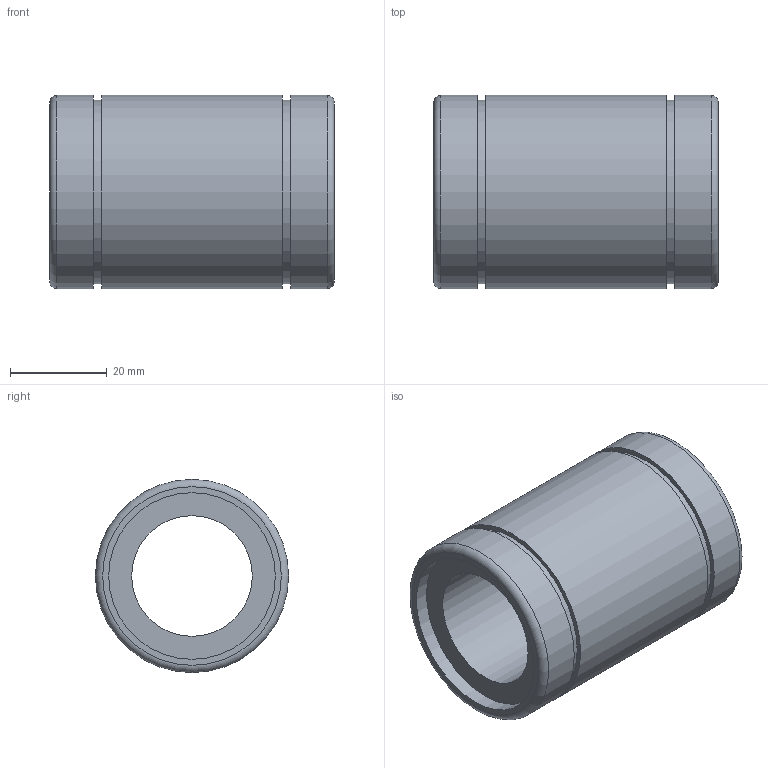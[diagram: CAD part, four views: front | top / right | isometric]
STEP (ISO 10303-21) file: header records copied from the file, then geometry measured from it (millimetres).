
FILE_DESCRIPTION( ( 'Unknown' ), '1' );
FILE_NAME( 'D:/累诀/己绕皋墨飘肺葱胶/11-04-06_档搁累己/01_府聪绢何教/LM/LM25.stp', 'Unknown', ( 'Unknown' ), ( 'Unknown' ), 'PSStep 11.0', 'Unknown', ' ' );
FILE_SCHEMA( ( 'AUTOMOTIVE_DESIGN { 1 0 10303 214 1 1 1 1 }' ) );
Length unit declared in the file: millimetre
Products named in the file (1): 1
Bounding box: 59 x 40 x 40 mm (x, y, z)
Volume: 41988.1 mm3; surface area: 14058.7 mm2
Topology: 1 solids, 1 shells, 18 faces, 30 edges, 20 vertices
Faces by surface type: plane 8, cylinder 8, torus 2
Full cylindrical faces by diameter (mm): 25 x1, 34.5 x2, 38 x2, 40 x3
Entity records: 528 total; most frequent: DIRECTION 74, CARTESIAN_POINT 55, AXIS2_PLACEMENT_3D 37, EDGE_LOOP 36, ORIENTED_EDGE 36, FACE_OUTER_BOUND 28, STYLED_ITEM 18, PRESENTATION_STYLE_ASSIGNMENT 18
